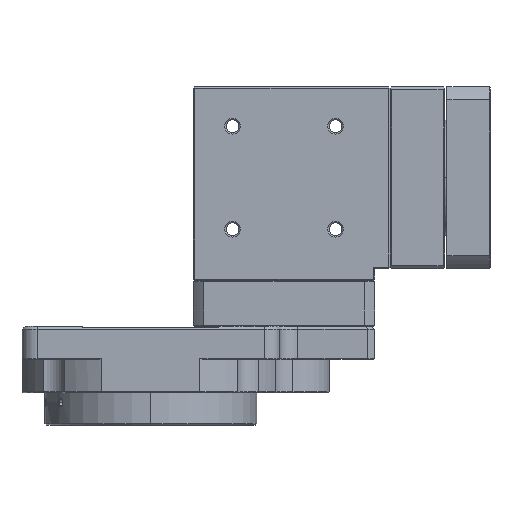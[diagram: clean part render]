
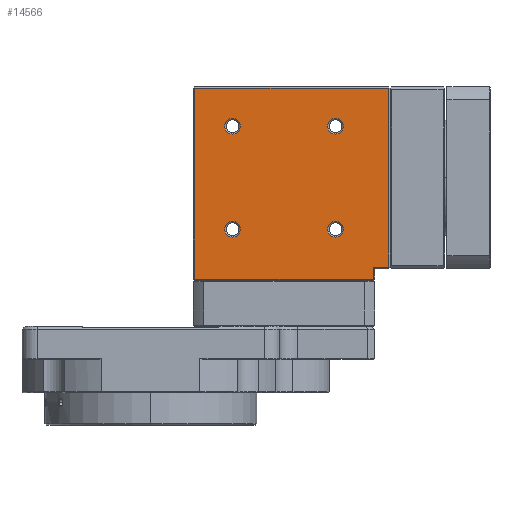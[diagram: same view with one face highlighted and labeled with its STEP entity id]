
A CAD part, left-side view. The second image highlights one B-rep face of the part: STEP entity #14566.
In plain terms, the highlighted planar face has unit normal (-1, 0, 0).
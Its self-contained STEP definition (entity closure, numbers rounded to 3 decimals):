
#626 = EDGE_LOOP ( 'NONE', ( #28186, #28205 ) ) ;
#646 = EDGE_LOOP ( 'NONE', ( #28273, #28253 ) ) ;
#647 = EDGE_LOOP ( 'NONE', ( #28259, #28246 ) ) ;
#674 = EDGE_LOOP ( 'NONE', ( #28312, #28242, #28285, #28291, #28306, #28256 ) ) ;
#696 = EDGE_LOOP ( 'NONE', ( #28271, #28248 ) ) ;
#1897 = VERTEX_POINT ( 'NONE', #11141 ) ;
#1935 = VERTEX_POINT ( 'NONE', #11195 ) ;
#1950 = VERTEX_POINT ( 'NONE', #11201 ) ;
#1960 = VERTEX_POINT ( 'NONE', #11191 ) ;
#1980 = VERTEX_POINT ( 'NONE', #11170 ) ;
#1984 = VERTEX_POINT ( 'NONE', #11210 ) ;
#1988 = VERTEX_POINT ( 'NONE', #11335 ) ;
#1991 = VERTEX_POINT ( 'NONE', #11309 ) ;
#2073 = VERTEX_POINT ( 'NONE', #23889 ) ;
#2083 = VERTEX_POINT ( 'NONE', #23895 ) ;
#2098 = VERTEX_POINT ( 'NONE', #23894 ) ;
#2122 = VERTEX_POINT ( 'NONE', #23906 ) ;
#3662 = CIRCLE ( 'NONE', #31652, 2.6 ) ;
#4438 = CIRCLE ( 'NONE', #31680, 2.6 ) ;
#4479 = VECTOR ( 'NONE', #24328, 1000. ) ;
#4486 = LINE ( 'NONE', #24327, #4479 ) ;
#4497 = CIRCLE ( 'NONE', #31573, 2.6 ) ;
#4515 = VECTOR ( 'NONE', #24367, 1000. ) ;
#4535 = VECTOR ( 'NONE', #24371, 1000. ) ;
#4553 = LINE ( 'NONE', #24358, #4535 ) ;
#4560 = LINE ( 'NONE', #24399, #4515 ) ;
#4570 = CIRCLE ( 'NONE', #31644, 2.6 ) ;
#6052 = CARTESIAN_POINT ( 'NONE',  ( -30., -79., 79. ) ) ;
#6061 = DIRECTION ( 'NONE',  ( 0., 1., 0. ) ) ;
#6067 = DIRECTION ( 'NONE',  ( -1., 0., 0. ) ) ;
#6086 = PLANE ( 'NONE',  #17539 ) ;
#8140 = EDGE_CURVE ( 'NONE', #1950, #1960, #4497, .T. ) ;
#8147 = EDGE_CURVE ( 'NONE', #1897, #1980, #4438, .T. ) ;
#8160 = EDGE_CURVE ( 'NONE', #32900, #2083, #4486, .T. ) ;
#8176 = EDGE_CURVE ( 'NONE', #2098, #32898, #4560, .T. ) ;
#8180 = EDGE_CURVE ( 'NONE', #32898, #32900, #4553, .T. ) ;
#8219 = EDGE_CURVE ( 'NONE', #1988, #1984, #4570, .T. ) ;
#8243 = EDGE_CURVE ( 'NONE', #1935, #1991, #3662, .T. ) ;
#11141 = CARTESIAN_POINT ( 'NONE',  ( -30., -63.6, 32. ) ) ;
#11170 = CARTESIAN_POINT ( 'NONE',  ( -30., -58.4, 32. ) ) ;
#11191 = CARTESIAN_POINT ( 'NONE',  ( -30., -24.4, 66. ) ) ;
#11195 = CARTESIAN_POINT ( 'NONE',  ( -30., -29.6, 32. ) ) ;
#11201 = CARTESIAN_POINT ( 'NONE',  ( -30., -29.6, 66. ) ) ;
#11210 = CARTESIAN_POINT ( 'NONE',  ( -30., -58.4, 66. ) ) ;
#11309 = CARTESIAN_POINT ( 'NONE',  ( -30., -24.4, 32. ) ) ;
#11335 = CARTESIAN_POINT ( 'NONE',  ( -30., -63.6, 66. ) ) ;
#12450 = VECTOR ( 'NONE', #13181, 1000. ) ;
#12460 = LINE ( 'NONE', #13196, #12450 ) ;
#12467 = VECTOR ( 'NONE', #13257, 1000. ) ;
#12489 = LINE ( 'NONE', #13185, #12467 ) ;
#12600 = LINE ( 'NONE', #13924, #12636 ) ;
#12636 = VECTOR ( 'NONE', #13999, 1000. ) ;
#12897 = CIRCLE ( 'NONE', #23705, 2.6 ) ;
#12935 = CIRCLE ( 'NONE', #23707, 2.6 ) ;
#12953 = CIRCLE ( 'NONE', #23708, 2.6 ) ;
#13121 = CIRCLE ( 'NONE', #23690, 2.6 ) ;
#13181 = DIRECTION ( 'NONE',  ( 0., 0., 1. ) ) ;
#13185 = CARTESIAN_POINT ( 'NONE',  ( -30., -79., 19.5 ) ) ;
#13196 = CARTESIAN_POINT ( 'NONE',  ( -30., -78.5, 79. ) ) ;
#13257 = DIRECTION ( 'NONE',  ( 0., -1., 0. ) ) ;
#13924 = CARTESIAN_POINT ( 'NONE',  ( -30., -73.5, 19. ) ) ;
#13999 = DIRECTION ( 'NONE',  ( 0., 0., 1. ) ) ;
#14566 = ADVANCED_FACE ( 'NONE', ( #26215, #26270, #26255, #26231, #26272 ), #6086, .T. ) ;
#15604 = DIRECTION ( 'NONE',  ( 0., 1., 0. ) ) ;
#15621 = DIRECTION ( 'NONE',  ( 1., 0., 0. ) ) ;
#15626 = DIRECTION ( 'NONE',  ( 1., 0., 0. ) ) ;
#15633 = CARTESIAN_POINT ( 'NONE',  ( -30., -27., 66. ) ) ;
#15637 = DIRECTION ( 'NONE',  ( 0., 1., 0. ) ) ;
#15647 = CARTESIAN_POINT ( 'NONE',  ( -30., -27., 32. ) ) ;
#15819 = CARTESIAN_POINT ( 'NONE',  ( -30., -61., 32. ) ) ;
#15829 = DIRECTION ( 'NONE',  ( 1., 0., 0. ) ) ;
#15846 = CARTESIAN_POINT ( 'NONE',  ( -30., -14.5, 78.5 ) ) ;
#15854 = DIRECTION ( 'NONE',  ( 0., 1., 0. ) ) ;
#16128 = DIRECTION ( 'NONE',  ( 0., 1., 0. ) ) ;
#16132 = DIRECTION ( 'NONE',  ( 1., 0., 0. ) ) ;
#16157 = CARTESIAN_POINT ( 'NONE',  ( -30., -61., 66. ) ) ;
#17174 = CARTESIAN_POINT ( 'NONE',  ( -30., -14.5, 15.5 ) ) ;
#17539 = AXIS2_PLACEMENT_3D ( 'NONE', #6052, #6067, #6061 ) ;
#23690 = AXIS2_PLACEMENT_3D ( 'NONE', #16157, #16132, #16128 ) ;
#23705 = AXIS2_PLACEMENT_3D ( 'NONE', #15633, #15621, #15637 ) ;
#23707 = AXIS2_PLACEMENT_3D ( 'NONE', #15647, #15626, #15604 ) ;
#23708 = AXIS2_PLACEMENT_3D ( 'NONE', #15819, #15829, #15854 ) ;
#23889 = CARTESIAN_POINT ( 'NONE',  ( -30., -78.5, 19.5 ) ) ;
#23894 = CARTESIAN_POINT ( 'NONE',  ( -30., -78.5, 78.5 ) ) ;
#23895 = CARTESIAN_POINT ( 'NONE',  ( -30., -73.5, 15.5 ) ) ;
#23906 = CARTESIAN_POINT ( 'NONE',  ( -30., -73.5, 19.5 ) ) ;
#24280 = CARTESIAN_POINT ( 'NONE',  ( -30., -27., 66. ) ) ;
#24294 = CARTESIAN_POINT ( 'NONE',  ( -30., -61., 32. ) ) ;
#24296 = DIRECTION ( 'NONE',  ( 1., 0., 0. ) ) ;
#24300 = DIRECTION ( 'NONE',  ( 1., 0., 0. ) ) ;
#24304 = DIRECTION ( 'NONE',  ( 0., 1., 0. ) ) ;
#24309 = DIRECTION ( 'NONE',  ( 0., 1., 0. ) ) ;
#24327 = CARTESIAN_POINT ( 'NONE',  ( -30., -74., 15.5 ) ) ;
#24328 = DIRECTION ( 'NONE',  ( 0., -1., 0. ) ) ;
#24358 = CARTESIAN_POINT ( 'NONE',  ( -30., -14.5, 15. ) ) ;
#24367 = DIRECTION ( 'NONE',  ( 0., 1., 0. ) ) ;
#24371 = DIRECTION ( 'NONE',  ( 0., 0., -1. ) ) ;
#24399 = CARTESIAN_POINT ( 'NONE',  ( -30., -79., 78.5 ) ) ;
#24497 = DIRECTION ( 'NONE',  ( 1., 0., 0. ) ) ;
#24531 = CARTESIAN_POINT ( 'NONE',  ( -30., -61., 66. ) ) ;
#24532 = DIRECTION ( 'NONE',  ( 0., 1., 0. ) ) ;
#24592 = DIRECTION ( 'NONE',  ( 1., 0., 0. ) ) ;
#24606 = DIRECTION ( 'NONE',  ( 0., 1., 0. ) ) ;
#24622 = CARTESIAN_POINT ( 'NONE',  ( -30., -27., 32. ) ) ;
#26215 = FACE_BOUND ( 'NONE', #647, .T. ) ;
#26231 = FACE_BOUND ( 'NONE', #646, .T. ) ;
#26255 = FACE_BOUND ( 'NONE', #696, .T. ) ;
#26270 = FACE_BOUND ( 'NONE', #626, .T. ) ;
#26272 = FACE_OUTER_BOUND ( 'NONE', #674, .T. ) ;
#28186 = ORIENTED_EDGE ( 'NONE', *, *, #30543, .T. ) ;
#28205 = ORIENTED_EDGE ( 'NONE', *, *, #8140, .T. ) ;
#28242 = ORIENTED_EDGE ( 'NONE', *, *, #30326, .T. ) ;
#28246 = ORIENTED_EDGE ( 'NONE', *, *, #8219, .T. ) ;
#28248 = ORIENTED_EDGE ( 'NONE', *, *, #8243, .T. ) ;
#28253 = ORIENTED_EDGE ( 'NONE', *, *, #8147, .T. ) ;
#28256 = ORIENTED_EDGE ( 'NONE', *, *, #8180, .T. ) ;
#28259 = ORIENTED_EDGE ( 'NONE', *, *, #30635, .T. ) ;
#28271 = ORIENTED_EDGE ( 'NONE', *, *, #30541, .T. ) ;
#28273 = ORIENTED_EDGE ( 'NONE', *, *, #30571, .T. ) ;
#28285 = ORIENTED_EDGE ( 'NONE', *, *, #30220, .T. ) ;
#28291 = ORIENTED_EDGE ( 'NONE', *, *, #30214, .T. ) ;
#28306 = ORIENTED_EDGE ( 'NONE', *, *, #8176, .T. ) ;
#28312 = ORIENTED_EDGE ( 'NONE', *, *, #8160, .T. ) ;
#30214 = EDGE_CURVE ( 'NONE', #2073, #2098, #12460, .T. ) ;
#30220 = EDGE_CURVE ( 'NONE', #2122, #2073, #12489, .T. ) ;
#30326 = EDGE_CURVE ( 'NONE', #2083, #2122, #12600, .T. ) ;
#30541 = EDGE_CURVE ( 'NONE', #1991, #1935, #12935, .T. ) ;
#30543 = EDGE_CURVE ( 'NONE', #1960, #1950, #12897, .T. ) ;
#30571 = EDGE_CURVE ( 'NONE', #1980, #1897, #12953, .T. ) ;
#30635 = EDGE_CURVE ( 'NONE', #1984, #1988, #13121, .T. ) ;
#31573 = AXIS2_PLACEMENT_3D ( 'NONE', #24280, #24300, #24304 ) ;
#31644 = AXIS2_PLACEMENT_3D ( 'NONE', #24531, #24497, #24532 ) ;
#31652 = AXIS2_PLACEMENT_3D ( 'NONE', #24622, #24592, #24606 ) ;
#31680 = AXIS2_PLACEMENT_3D ( 'NONE', #24294, #24296, #24309 ) ;
#32898 = VERTEX_POINT ( 'NONE', #15846 ) ;
#32900 = VERTEX_POINT ( 'NONE', #17174 ) ;
